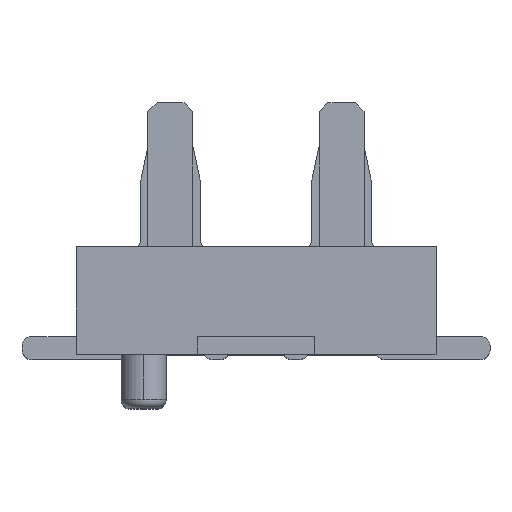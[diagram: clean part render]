
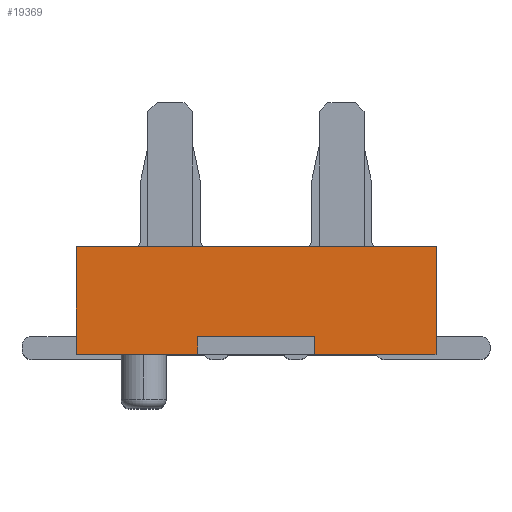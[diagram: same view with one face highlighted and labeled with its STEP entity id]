
A CAD part, top view. The second image highlights one B-rep face of the part: STEP entity #19369.
In plain terms, the highlighted planar face has unit normal (0, 0, 1).
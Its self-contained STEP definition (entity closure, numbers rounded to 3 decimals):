
#643 = VECTOR ( 'NONE', #25735, 1000. ) ;
#3013 = CARTESIAN_POINT ( 'NONE',  ( -95.169, 94.049, -6. ) ) ;
#3081 = CARTESIAN_POINT ( 'NONE',  ( -93.869, 94.049, -6. ) ) ;
#3354 = DIRECTION ( 'NONE',  ( 0., 0., 1. ) ) ;
#3609 = VERTEX_POINT ( 'NONE', #33645 ) ;
#4055 = CARTESIAN_POINT ( 'NONE',  ( -95.169, 94.049, -6. ) ) ;
#4089 = ORIENTED_EDGE ( 'NONE', *, *, #31485, .T. ) ;
#4124 = CARTESIAN_POINT ( 'NONE',  ( -93.869, 94.049, -6. ) ) ;
#4532 = AXIS2_PLACEMENT_3D ( 'NONE', #32315, #3354, #29533 ) ;
#4924 = LINE ( 'NONE', #7196, #25820 ) ;
#5771 = DIRECTION ( 'NONE',  ( 0., -1., 0. ) ) ;
#5966 = LINE ( 'NONE', #3013, #12897 ) ;
#6052 = VERTEX_POINT ( 'NONE', #3081 ) ;
#6252 = EDGE_CURVE ( 'NONE', #6052, #28381, #30809, .T. ) ;
#6339 = CARTESIAN_POINT ( 'NONE',  ( -92.519, 93.849, -6. ) ) ;
#7196 = CARTESIAN_POINT ( 'NONE',  ( -92.519, 93.849, -6. ) ) ;
#7807 = DIRECTION ( 'NONE',  ( 0., -1., 0. ) ) ;
#8933 = VERTEX_POINT ( 'NONE', #22154 ) ;
#9104 = VERTEX_POINT ( 'NONE', #10935 ) ;
#9444 = LINE ( 'NONE', #12744, #19631 ) ;
#9805 = DIRECTION ( 'NONE',  ( -1., 0., 0. ) ) ;
#10509 = LINE ( 'NONE', #26388, #11999 ) ;
#10527 = ORIENTED_EDGE ( 'NONE', *, *, #10954, .F. ) ;
#10863 = PLANE ( 'NONE',  #4532 ) ;
#10935 = CARTESIAN_POINT ( 'NONE',  ( -92.519, 95.049, -6. ) ) ;
#10954 = EDGE_CURVE ( 'NONE', #28381, #31676, #5966, .T. ) ;
#11305 = CARTESIAN_POINT ( 'NONE',  ( -96.519, 95.049, -6. ) ) ;
#11587 = VERTEX_POINT ( 'NONE', #31035 ) ;
#11999 = VECTOR ( 'NONE', #18522, 1000. ) ;
#12744 = CARTESIAN_POINT ( 'NONE',  ( -95.169, 93.849, -6. ) ) ;
#12848 = CARTESIAN_POINT ( 'NONE',  ( -93.869, 94.049, -6. ) ) ;
#12897 = VECTOR ( 'NONE', #24441, 1000. ) ;
#13124 = EDGE_CURVE ( 'NONE', #6052, #8933, #34492, .T. ) ;
#13440 = CARTESIAN_POINT ( 'NONE',  ( -96.519, 95.049, -6. ) ) ;
#13961 = EDGE_CURVE ( 'NONE', #17533, #3609, #26876, .T. ) ;
#14683 = ORIENTED_EDGE ( 'NONE', *, *, #13961, .T. ) ;
#14719 = EDGE_CURVE ( 'NONE', #31676, #3609, #9444, .T. ) ;
#15635 = EDGE_CURVE ( 'NONE', #11587, #8933, #4924, .T. ) ;
#16069 = CARTESIAN_POINT ( 'NONE',  ( -95.169, 93.849, -6. ) ) ;
#16391 = ORIENTED_EDGE ( 'NONE', *, *, #14719, .F. ) ;
#16765 = FACE_OUTER_BOUND ( 'NONE', #31734, .T. ) ;
#17533 = VERTEX_POINT ( 'NONE', #11305 ) ;
#17990 = EDGE_CURVE ( 'NONE', #9104, #17533, #10509, .T. ) ;
#18522 = DIRECTION ( 'NONE',  ( -1., 0., 0. ) ) ;
#19369 = ADVANCED_FACE ( 'NONE', ( #16765 ), #10863, .T. ) ;
#19631 = VECTOR ( 'NONE', #25999, 1000. ) ;
#20710 = VECTOR ( 'NONE', #5771, 1000. ) ;
#22154 = CARTESIAN_POINT ( 'NONE',  ( -93.869, 93.849, -6. ) ) ;
#23909 = VECTOR ( 'NONE', #30054, 1000. ) ;
#23946 = ORIENTED_EDGE ( 'NONE', *, *, #13124, .T. ) ;
#24441 = DIRECTION ( 'NONE',  ( 0., -1., 0. ) ) ;
#25332 = LINE ( 'NONE', #6339, #23909 ) ;
#25735 = DIRECTION ( 'NONE',  ( -1., 0., 0. ) ) ;
#25820 = VECTOR ( 'NONE', #9805, 1000. ) ;
#25999 = DIRECTION ( 'NONE',  ( -1., 0., 0. ) ) ;
#26388 = CARTESIAN_POINT ( 'NONE',  ( -92.519, 95.049, -6. ) ) ;
#26522 = ORIENTED_EDGE ( 'NONE', *, *, #17990, .T. ) ;
#26869 = ORIENTED_EDGE ( 'NONE', *, *, #15635, .F. ) ;
#26876 = LINE ( 'NONE', #13440, #20710 ) ;
#28381 = VERTEX_POINT ( 'NONE', #4055 ) ;
#29533 = DIRECTION ( 'NONE',  ( 1., 0., 0. ) ) ;
#29643 = VECTOR ( 'NONE', #7807, 1000. ) ;
#30054 = DIRECTION ( 'NONE',  ( 0., 1., 0. ) ) ;
#30809 = LINE ( 'NONE', #4124, #643 ) ;
#31035 = CARTESIAN_POINT ( 'NONE',  ( -92.519, 93.849, -6. ) ) ;
#31485 = EDGE_CURVE ( 'NONE', #11587, #9104, #25332, .T. ) ;
#31676 = VERTEX_POINT ( 'NONE', #16069 ) ;
#31734 = EDGE_LOOP ( 'NONE', ( #16391, #10527, #33288, #23946, #26869, #4089, #26522, #14683 ) ) ;
#32315 = CARTESIAN_POINT ( 'NONE',  ( -94.519, 94.449, -6. ) ) ;
#33288 = ORIENTED_EDGE ( 'NONE', *, *, #6252, .F. ) ;
#33645 = CARTESIAN_POINT ( 'NONE',  ( -96.519, 93.849, -6. ) ) ;
#34492 = LINE ( 'NONE', #12848, #29643 ) ;
